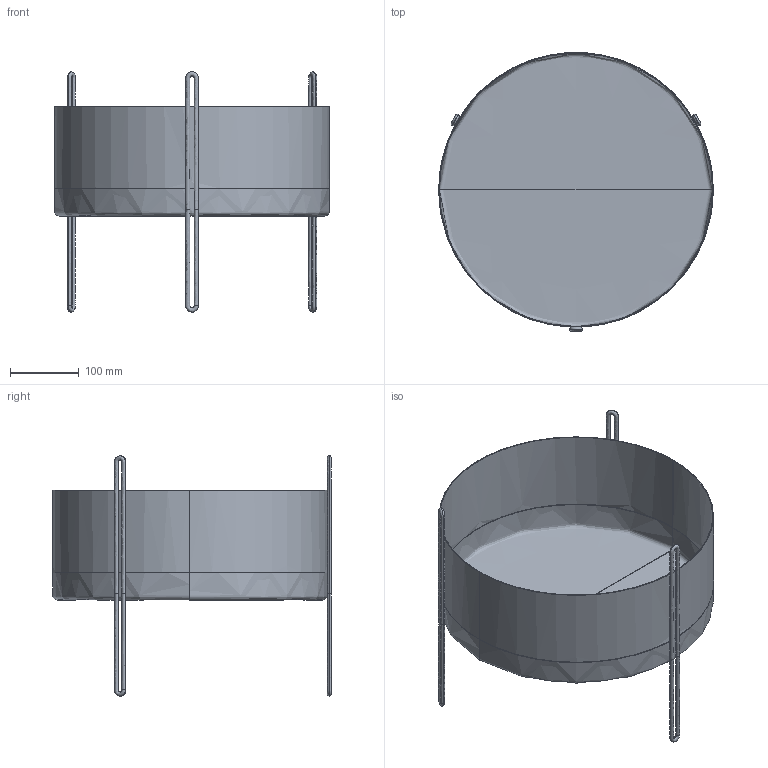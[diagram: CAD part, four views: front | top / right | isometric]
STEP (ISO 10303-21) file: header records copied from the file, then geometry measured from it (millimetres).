
FILE_DESCRIPTION(/* description */ (''),/* implementation_level */ '2;1');
FILE_NAME(/* name */ 'Pidestall flowerpot M',/* time_stamp */ '2020-04-02T09:44:45+02:00',/* author */ (''),/* organization */ (''),/* preprocessor_version */ 'ST-DEVELOPER v15',/* originating_system */ '',/* authorisation */ '');
FILE_SCHEMA (('AUTOMOTIVE_DESIGN'));
Length unit declared in the file: millimetre
Products named in the file (1): Document
Bounding box: 400 x 406 x 349.98 mm (x, y, z)
Surface area: 684749.8 mm2 (no closed solid volume)
Topology: 0 solids, 27 shells, 27 faces, 108 edges, 104 vertices
Faces by surface type: bspline 27
Entity records: 14346 total; most frequent: CARTESIAN_POINT 13202, B_SPLINE_CURVE_WITH_KNOTS 116, ORIENTED_EDGE 104, PCURVE 104, DEFINITIONAL_REPRESENTATION 104, SURFACE_CURVE 104, EDGE_CURVE 104, VERTEX_POINT 104
